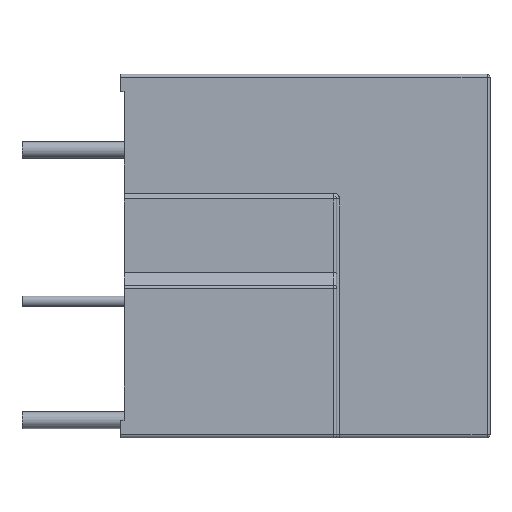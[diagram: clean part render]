
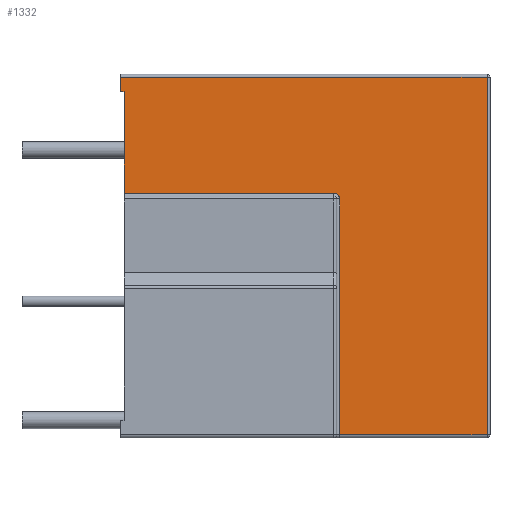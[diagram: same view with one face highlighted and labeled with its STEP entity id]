
A CAD part, left-side view. The second image highlights one B-rep face of the part: STEP entity #1332.
In plain terms, the highlighted planar face has unit normal (-1, 0, 0).
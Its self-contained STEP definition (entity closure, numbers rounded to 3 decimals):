
#140=DIRECTION('',(0.,0.,1.));
#141=VECTOR('',#140,1.5);
#142=CARTESIAN_POINT('',(-8.6,37.6,-1.8));
#143=LINE('',#142,#141);
#198=DIRECTION('',(0.,0.,1.));
#199=VECTOR('',#198,10.3);
#200=CARTESIAN_POINT('',(-8.6,37.2,-12.1));
#201=LINE('',#200,#199);
#362=DIRECTION('',(0.,1.,0.));
#363=VECTOR('',#362,21.3);
#364=CARTESIAN_POINT('',(-8.6,15.9,-12.1));
#365=LINE('',#364,#363);
#366=DIRECTION('',(0.,1.,0.));
#367=VECTOR('',#366,0.4);
#368=CARTESIAN_POINT('',(-8.6,37.2,-1.8));
#369=LINE('',#368,#367);
#370=DIRECTION('',(0.,1.,0.));
#371=VECTOR('',#370,37.3);
#372=CARTESIAN_POINT('',(-8.6,0.3,-0.3));
#373=LINE('',#372,#371);
#374=DIRECTION('',(0.,0.,1.));
#375=VECTOR('',#374,36.4);
#376=CARTESIAN_POINT('',(-8.6,0.3,-36.7));
#377=LINE('',#376,#375);
#378=DIRECTION('',(0.,1.,0.));
#379=VECTOR('',#378,15.);
#380=CARTESIAN_POINT('',(-8.6,0.3,-36.7));
#381=LINE('',#380,#379);
#382=DIRECTION('',(0.,0.,1.));
#383=VECTOR('',#382,24.);
#384=CARTESIAN_POINT('',(-8.6,15.3,-36.7));
#385=LINE('',#384,#383);
#386=CARTESIAN_POINT('',(-8.6,15.9,-12.7));
#387=DIRECTION('',(1.,0.,0.));
#388=DIRECTION('',(0.,0.,1.));
#389=AXIS2_PLACEMENT_3D('',#386,#387,#388);
#755=CARTESIAN_POINT('',(-8.6,37.6,-1.8));
#756=VERTEX_POINT('',#755);
#783=CARTESIAN_POINT('',(-8.6,37.2,-1.8));
#784=VERTEX_POINT('',#783);
#835=CARTESIAN_POINT('',(-8.6,15.9,-12.1));
#836=CARTESIAN_POINT('',(-8.6,37.2,-12.1));
#837=VERTEX_POINT('',#835);
#838=VERTEX_POINT('',#836);
#887=CARTESIAN_POINT('',(-8.6,37.6,-0.3));
#889=VERTEX_POINT('',#887);
#891=CARTESIAN_POINT('',(-8.6,0.3,-0.3));
#892=VERTEX_POINT('',#891);
#893=CARTESIAN_POINT('',(-8.6,0.3,-36.7));
#894=VERTEX_POINT('',#893);
#895=CARTESIAN_POINT('',(-8.6,15.3,-36.7));
#896=VERTEX_POINT('',#895);
#915=CARTESIAN_POINT('',(-8.6,15.3,-12.7));
#916=VERTEX_POINT('',#915);
#1309=CARTESIAN_POINT('',(-8.6,0.,-12.4));
#1310=DIRECTION('',(-1.,0.,0.));
#1311=DIRECTION('',(0.,0.,1.));
#1312=AXIS2_PLACEMENT_3D('',#1309,#1310,#1311);
#1313=PLANE('',#1312);
#1315=ORIENTED_EDGE('',*,*,#1314,.T.);
#1316=ORIENTED_EDGE('',*,*,#1120,.T.);
#1318=ORIENTED_EDGE('',*,*,#1317,.T.);
#1319=ORIENTED_EDGE('',*,*,#1086,.T.);
#1321=ORIENTED_EDGE('',*,*,#1320,.F.);
#1323=ORIENTED_EDGE('',*,*,#1322,.F.);
#1325=ORIENTED_EDGE('',*,*,#1324,.T.);
#1327=ORIENTED_EDGE('',*,*,#1326,.T.);
#1329=ORIENTED_EDGE('',*,*,#1328,.F.);
#1330=EDGE_LOOP('',(#1315,#1316,#1318,#1319,#1321,#1323,#1325,#1327,#1329));
#1331=FACE_OUTER_BOUND('',#1330,.F.);
#1332=ADVANCED_FACE('',(#1331),#1313,.T.);
#390=CIRCLE('',#389,0.6);
#1086=EDGE_CURVE('',#756,#889,#143,.T.);
#1120=EDGE_CURVE('',#838,#784,#201,.T.);
#1314=EDGE_CURVE('',#837,#838,#365,.T.);
#1317=EDGE_CURVE('',#784,#756,#369,.T.);
#1320=EDGE_CURVE('',#892,#889,#373,.T.);
#1322=EDGE_CURVE('',#894,#892,#377,.T.);
#1324=EDGE_CURVE('',#894,#896,#381,.T.);
#1326=EDGE_CURVE('',#896,#916,#385,.T.);
#1328=EDGE_CURVE('',#837,#916,#390,.T.);
